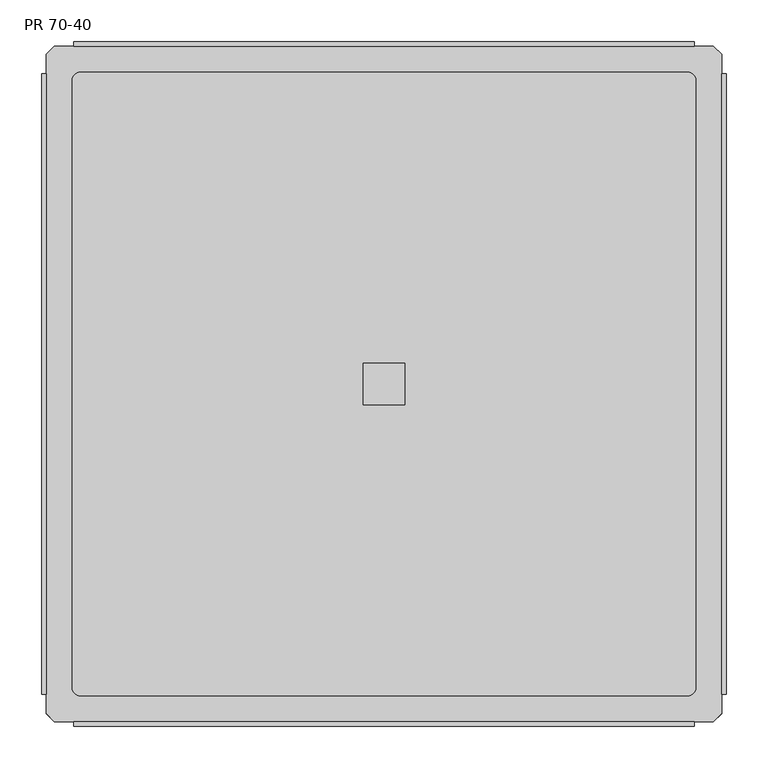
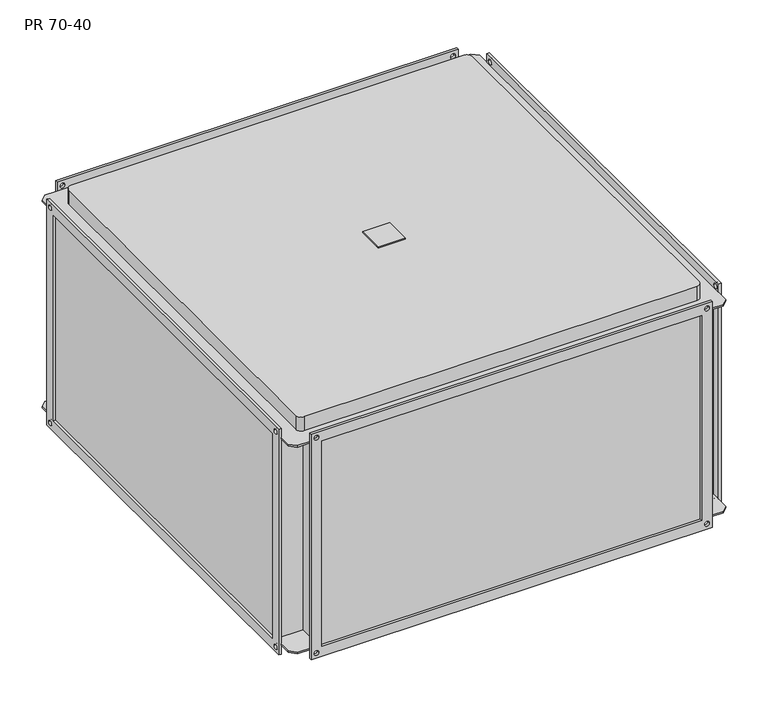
"""IFC4 building model written with IfcOpenShell, lengths in millimetres: proxy geometry, KORF_Рекуператор_Пластинчатый_PR : PR 70-40."""

from ifc_helpers import new_model, si_unit, point, frame, frame_2d, origin, place, context, project, spatial, polyline, circle_curve, trimmed, segment, composite_curve, outline, extrude, source, transform, mapped, element, save
from ifc_brep_helpers import plane_surface, cylinder_surface, revolved_surface, advanced_brep


def pr_70_40_7cd3e959(model_context):
    return source(origin(), model_context, "Body", "SolidModel", [
        extrude(outline(polyline([(383.0, -25.0), (383.0, 25.0), (433.0, 25.0), (433.0, -25.0), (383.0, -25.0)])), frame((0.0, 0.0, 230.0), z_axis=(0.0, 0.0, 1.0), x_axis=(1.0, 0.0, 0.0)), (0.0, 0.0, 1.0), 2.0),
        advanced_brep(
        [(758.0, -403.0, -200.0), (758.0, -403.0, 200.0), (58.0, -403.0, 200.0), (58.0, -403.0, -200.0), (758.0, 403.0, 200.0), (758.0, 403.0, -200.0), (58.0, 403.0, -200.0), (58.0, 403.0, 200.0), (15.0, 403.0, 203.0), (5.0, 393.0, 203.0), (5.0, -393.0, 203.0), (15.0, -403.0, 203.0), (38.0, -403.0, 203.0), (778.0, -403.0, 203.0), (801.0, -403.0, 203.0), (811.0, -393.0, 203.0), (811.0, 393.0, 203.0), (801.0, 403.0, 203.0), (778.0, 403.0, 203.0), (38.0, 403.0, 203.0), (46.0, 372.0, 203.0), (770.0, 372.0, 203.0), (780.0, 362.0, 203.0), (780.0, -362.0, 203.0), (770.0, -372.0, 203.0), (46.0, -372.0, 203.0), (36.0, -362.0, 203.0), (36.0, 362.0, 203.0), (55.0, -403.0, 200.0), (55.0, -353.0, 200.0), (55.0, -353.0, -200.0), (55.0, -403.0, -200.0), (55.0, 353.0, 200.0), (55.0, 403.0, 200.0), (55.0, 403.0, -200.0), (55.0, 353.0, -200.0), (5.0, 393.0, -203.0), (15.0, 403.0, -203.0), (38.0, 403.0, -203.0), (778.0, 403.0, -203.0), (801.0, 403.0, -203.0), (811.0, 393.0, -203.0), (811.0, -393.0, -203.0), (801.0, -403.0, -203.0), (778.0, -403.0, -203.0), (38.0, -403.0, -203.0), (15.0, -403.0, -203.0), (5.0, -393.0, -203.0), (761.0, -353.0, 200.0), (761.0, -403.0, 200.0), (761.0, -403.0, -200.0), (761.0, -353.0, -200.0), (761.0, 403.0, 200.0), (761.0, 353.0, 200.0), (761.0, 353.0, -200.0), (761.0, 403.0, -200.0), (811.0, 353.0, 200.0), (811.0, 393.0, 200.0), (811.0, -393.0, 200.0), (811.0, -353.0, 200.0), (811.0, -353.0, -200.0), (811.0, -393.0, -200.0), (811.0, 393.0, -200.0), (811.0, 353.0, -200.0), (5.0, 393.0, 200.0), (5.0, 353.0, 200.0), (5.0, 353.0, -200.0), (5.0, 393.0, -200.0), (5.0, -393.0, -200.0), (5.0, -353.0, -200.0), (5.0, -353.0, 200.0), (5.0, -393.0, 200.0), (778.0, 408.0, 220.0), (778.0, 408.0, -220.0), (38.0, 408.0, -220.0), (38.0, 408.0, 220.0), (758.0, 408.0, 200.0), (58.0, 408.0, 200.0), (58.0, 408.0, -200.0), (758.0, 408.0, -200.0), (43.5, 408.0, 210.0), (52.5, 408.0, 210.0), (763.5, 408.0, 210.0), (772.5, 408.0, 210.0), (763.5, 408.0, -210.0), (772.5, 408.0, -210.0), (43.5, 408.0, -210.0), (52.5, 408.0, -210.0), (778.0, 403.0, 220.0), (38.0, 403.0, 220.0), (43.5, 403.0, 210.0), (52.5, 403.0, 210.0), (763.5, 403.0, 210.0), (772.5, 403.0, 210.0), (38.0, 403.0, -220.0), (778.0, 403.0, -220.0), (763.5, 403.0, -210.0), (772.5, 403.0, -210.0), (43.5, 403.0, -210.0), (52.5, 403.0, -210.0), (38.0, 403.0, 200.0), (38.0, 403.0, -200.0), (778.0, 403.0, 200.0), (778.0, 403.0, -200.0), (778.0, -408.0, 220.0), (38.0, -408.0, 220.0), (38.0, -408.0, -220.0), (778.0, -408.0, -220.0), (758.0, -408.0, 200.0), (758.0, -408.0, -200.0), (58.0, -408.0, -200.0), (58.0, -408.0, 200.0), (763.5, -408.0, 210.0), (772.5, -408.0, 210.0), (763.5, -408.0, -210.0), (772.5, -408.0, -210.0), (43.5, -408.0, 210.0), (52.5, -408.0, 210.0), (43.5, -408.0, -210.0), (52.5, -408.0, -210.0), (778.0, -403.0, -220.0), (38.0, -403.0, -220.0), (763.5, -403.0, -210.0), (772.5, -403.0, -210.0), (43.5, -403.0, -210.0), (52.5, -403.0, -210.0), (38.0, -403.0, 220.0), (778.0, -403.0, 220.0), (763.5, -403.0, 210.0), (772.5, -403.0, 210.0), (43.5, -403.0, 210.0), (52.5, -403.0, 210.0), (38.0, -403.0, 200.0), (38.0, -403.0, -200.0), (778.0, -403.0, 200.0), (778.0, -403.0, -200.0), (801.0, -403.0, 200.0), (15.0, 403.0, 200.0), (801.0, 403.0, 200.0), (15.0, -403.0, 200.0), (801.0, 403.0, -200.0), (15.0, -403.0, -200.0), (15.0, 403.0, -200.0), (801.0, -403.0, -200.0), (770.0, 372.0, 230.0), (46.0, 372.0, 230.0), (36.0, 362.0, 230.0), (36.0, -362.0, 230.0), (46.0, -372.0, 230.0), (770.0, -372.0, 230.0), (780.0, -362.0, 230.0), (780.0, 362.0, 230.0)],
        [
            (0, 1),
            (1, 2),
            (2, 3),
            (3, 0),
            (4, 5),
            (5, 6),
            (6, 7),
            (7, 4),
            (8, 9),
            (9, 10),
            (10, 11),
            (11, 12),
            (12, 13),
            (13, 14),
            (14, 15),
            (15, 16),
            (16, 17),
            (17, 18),
            (18, 19),
            (19, 8),
            (20, 21),
            (21, 22, circle_curve(frame((770.0, 362.0, 203.0), z_axis=(0.0, 0.0, -1.0), x_axis=(1.0, 0.0, 0.0)), 10.0)),
            (22, 23),
            (23, 24, circle_curve(frame((770.0, -362.0, 203.0), z_axis=(0.0, 0.0, -1.0), x_axis=(1.0, 0.0, 0.0)), 10.0)),
            (24, 25),
            (25, 26, circle_curve(frame((46.0, -362.0, 203.0), z_axis=(0.0, 0.0, -1.0), x_axis=(1.0, 0.0, 0.0)), 10.0)),
            (26, 27),
            (27, 20, circle_curve(frame((46.0, 362.0, 203.0), z_axis=(0.0, 0.0, -1.0), x_axis=(1.0, 0.0, 0.0)), 10.0)),
            (28, 29),
            (29, 30),
            (30, 31),
            (31, 28),
            (32, 33),
            (33, 34),
            (34, 35),
            (35, 32),
            (36, 37),
            (37, 38),
            (38, 39),
            (39, 40),
            (40, 41),
            (41, 42),
            (42, 43),
            (43, 44),
            (44, 45),
            (45, 46),
            (46, 47),
            (47, 36),
            (48, 49),
            (49, 50),
            (50, 51),
            (51, 48),
            (52, 53),
            (53, 54),
            (54, 55),
            (55, 52),
            (56, 57),
            (57, 16),
            (15, 58),
            (58, 59),
            (59, 60),
            (60, 61),
            (61, 42),
            (41, 62),
            (62, 63),
            (63, 56),
            (64, 65),
            (65, 66),
            (66, 67),
            (67, 36),
            (47, 68),
            (68, 69),
            (69, 70),
            (70, 71),
            (71, 10),
            (9, 64),
            (29, 70),
            (69, 30),
            (59, 48),
            (51, 60),
            (65, 32),
            (35, 66),
            (53, 56),
            (63, 54),
            (72, 73),
            (73, 74),
            (74, 75),
            (75, 72),
            (76, 77),
            (77, 78),
            (78, 79),
            (79, 76),
            (80, 81, circle_curve(frame((48.0, 408.0, 210.0), z_axis=(0.0, -1.0, 0.0), x_axis=(1.0, 0.0, 0.0)), 4.5)),
            (81, 80, circle_curve(frame((48.0, 408.0, 210.0), z_axis=(0.0, -1.0, 0.0), x_axis=(1.0, 0.0, 0.0)), 4.5)),
            (82, 83, circle_curve(frame((768.0, 408.0, 210.0), z_axis=(0.0, -1.0, 0.0), x_axis=(1.0, 0.0, 0.0)), 4.5)),
            (83, 82, circle_curve(frame((768.0, 408.0, 210.0), z_axis=(0.0, -1.0, 0.0), x_axis=(1.0, 0.0, 0.0)), 4.5)),
            (84, 85, circle_curve(frame((768.0, 408.0, -210.0), z_axis=(0.0, -1.0, 0.0), x_axis=(1.0, 0.0, 0.0)), 4.5)),
            (85, 84, circle_curve(frame((768.0, 408.0, -210.0), z_axis=(0.0, -1.0, 0.0), x_axis=(1.0, 0.0, 0.0)), 4.5)),
            (86, 87, circle_curve(frame((48.0, 408.0, -210.0), z_axis=(0.0, -1.0, 0.0), x_axis=(1.0, 0.0, 0.0)), 4.5)),
            (87, 86, circle_curve(frame((48.0, 408.0, -210.0), z_axis=(0.0, -1.0, 0.0), x_axis=(1.0, 0.0, 0.0)), 4.5)),
            (88, 89),
            (89, 19),
            (18, 88),
            (90, 91, circle_curve(frame((48.0, 403.0, 210.0), z_axis=(0.0, 1.0, 0.0), x_axis=(1.0, 0.0, 0.0)), 4.5)),
            (91, 90, circle_curve(frame((48.0, 403.0, 210.0), z_axis=(0.0, 1.0, 0.0), x_axis=(1.0, 0.0, 0.0)), 4.5)),
            (92, 93, circle_curve(frame((768.0, 403.0, 210.0), z_axis=(0.0, 1.0, 0.0), x_axis=(1.0, 0.0, 0.0)), 4.5)),
            (93, 92, circle_curve(frame((768.0, 403.0, 210.0), z_axis=(0.0, 1.0, 0.0), x_axis=(1.0, 0.0, 0.0)), 4.5)),
            (94, 95),
            (95, 39),
            (38, 94),
            (96, 97, circle_curve(frame((768.0, 403.0, -210.0), z_axis=(0.0, 1.0, 0.0), x_axis=(1.0, 0.0, 0.0)), 4.5)),
            (97, 96, circle_curve(frame((768.0, 403.0, -210.0), z_axis=(0.0, 1.0, 0.0), x_axis=(1.0, 0.0, 0.0)), 4.5)),
            (98, 99, circle_curve(frame((48.0, 403.0, -210.0), z_axis=(0.0, 1.0, 0.0), x_axis=(1.0, 0.0, 0.0)), 4.5)),
            (99, 98, circle_curve(frame((48.0, 403.0, -210.0), z_axis=(0.0, 1.0, 0.0), x_axis=(1.0, 0.0, 0.0)), 4.5)),
            (33, 100),
            (100, 101),
            (101, 34),
            (102, 52),
            (55, 103),
            (103, 102),
            (75, 89),
            (88, 72),
            (74, 94),
            (38, 101),
            (100, 19),
            (73, 95),
            (18, 102),
            (103, 39),
            (79, 5),
            (4, 76),
            (78, 6),
            (77, 7),
            (104, 105),
            (105, 106),
            (106, 107),
            (107, 104),
            (108, 109),
            (109, 110),
            (110, 111),
            (111, 108),
            (112, 113, circle_curve(frame((768.0, -408.0, 210.0), z_axis=(0.0, 1.0, 0.0), x_axis=(1.0, 0.0, 0.0)), 4.5)),
            (113, 112, circle_curve(frame((768.0, -408.0, 210.0), z_axis=(0.0, 1.0, 0.0), x_axis=(1.0, 0.0, 0.0)), 4.5)),
            (114, 115, circle_curve(frame((768.0, -408.0, -210.0), z_axis=(0.0, 1.0, 0.0), x_axis=(1.0, 0.0, 0.0)), 4.5)),
            (115, 114, circle_curve(frame((768.0, -408.0, -210.0), z_axis=(0.0, 1.0, 0.0), x_axis=(1.0, 0.0, 0.0)), 4.5)),
            (116, 117, circle_curve(frame((48.0, -408.0, 210.0), z_axis=(0.0, 1.0, 0.0), x_axis=(1.0, 0.0, 0.0)), 4.5)),
            (117, 116, circle_curve(frame((48.0, -408.0, 210.0), z_axis=(0.0, 1.0, 0.0), x_axis=(1.0, 0.0, 0.0)), 4.5)),
            (118, 119, circle_curve(frame((48.0, -408.0, -210.0), z_axis=(0.0, 1.0, 0.0), x_axis=(1.0, 0.0, 0.0)), 4.5)),
            (119, 118, circle_curve(frame((48.0, -408.0, -210.0), z_axis=(0.0, 1.0, 0.0), x_axis=(1.0, 0.0, 0.0)), 4.5)),
            (120, 121),
            (121, 45),
            (44, 120),
            (122, 123, circle_curve(frame((768.0, -403.0, -210.0), z_axis=(0.0, -1.0, 0.0), x_axis=(1.0, 0.0, 0.0)), 4.5)),
            (123, 122, circle_curve(frame((768.0, -403.0, -210.0), z_axis=(0.0, -1.0, 0.0), x_axis=(1.0, 0.0, 0.0)), 4.5)),
            (124, 125, circle_curve(frame((48.0, -403.0, -210.0), z_axis=(0.0, -1.0, 0.0), x_axis=(1.0, 0.0, 0.0)), 4.5)),
            (125, 124, circle_curve(frame((48.0, -403.0, -210.0), z_axis=(0.0, -1.0, 0.0), x_axis=(1.0, 0.0, 0.0)), 4.5)),
            (126, 127),
            (127, 13),
            (12, 126),
            (128, 129, circle_curve(frame((768.0, -403.0, 210.0), z_axis=(0.0, -1.0, 0.0), x_axis=(1.0, 0.0, 0.0)), 4.5)),
            (129, 128, circle_curve(frame((768.0, -403.0, 210.0), z_axis=(0.0, -1.0, 0.0), x_axis=(1.0, 0.0, 0.0)), 4.5)),
            (130, 131, circle_curve(frame((48.0, -403.0, 210.0), z_axis=(0.0, -1.0, 0.0), x_axis=(1.0, 0.0, 0.0)), 4.5)),
            (131, 130, circle_curve(frame((48.0, -403.0, 210.0), z_axis=(0.0, -1.0, 0.0), x_axis=(1.0, 0.0, 0.0)), 4.5)),
            (132, 28),
            (31, 133),
            (133, 132),
            (49, 134),
            (134, 135),
            (135, 50),
            (104, 127),
            (126, 105),
            (12, 132),
            (133, 45),
            (121, 106),
            (120, 107),
            (44, 135),
            (134, 13),
            (108, 1),
            (0, 109),
            (3, 110),
            (2, 111),
            (81, 91),
            (90, 80),
            (83, 93),
            (92, 82),
            (85, 97),
            (96, 84),
            (87, 99),
            (98, 86),
            (112, 128),
            (129, 113),
            (114, 122),
            (123, 115),
            (116, 130),
            (131, 117),
            (118, 124),
            (125, 119),
            (58, 136),
            (136, 134),
            (64, 137),
            (137, 100),
            (138, 57),
            (102, 138),
            (139, 71),
            (132, 139),
            (137, 8),
            (138, 17),
            (139, 11),
            (136, 14),
            (62, 140),
            (140, 103),
            (68, 141),
            (141, 133),
            (142, 67),
            (101, 142),
            (143, 61),
            (135, 143),
            (37, 142),
            (40, 140),
            (46, 141),
            (43, 143),
            (144, 145),
            (145, 146, circle_curve(frame((46.0, 362.0, 230.0), z_axis=(0.0, 0.0, 1.0), x_axis=(1.0, 0.0, 0.0)), 10.0)),
            (146, 147),
            (147, 148, circle_curve(frame((46.0, -362.0, 230.0), z_axis=(0.0, 0.0, 1.0), x_axis=(1.0, 0.0, 0.0)), 10.0)),
            (148, 149),
            (149, 150, circle_curve(frame((770.0, -362.0, 230.0), z_axis=(0.0, 0.0, 1.0), x_axis=(1.0, 0.0, 0.0)), 10.0)),
            (150, 151),
            (151, 144, circle_curve(frame((770.0, 362.0, 230.0), z_axis=(0.0, 0.0, 1.0), x_axis=(1.0, 0.0, 0.0)), 10.0)),
            (144, 21),
            (20, 145),
            (27, 146),
            (26, 147),
            (25, 148),
            (24, 149),
            (23, 150),
            (22, 151),
        ],
        [
            plane_surface(frame((55.0, -403.0, 203.0), z_axis=(0.0, -1.0, 0.0), x_axis=(-1.0, 0.0, 0.0))),
            plane_surface(frame((55.0, 403.0, 203.0), z_axis=(0.0, 1.0, 0.0), x_axis=(1.0, 0.0, 0.0))),
            plane_surface(frame((761.0, -403.0, 203.0), z_axis=(0.0, 0.0, 1.0), x_axis=(0.0, 1.0, 0.0))),
            plane_surface(frame((55.0, -403.0, 203.0), z_axis=(-1.0, 0.0, 0.0), x_axis=(0.0, 1.0, 0.0))),
            plane_surface(frame((55.0, -403.0, -203.0), z_axis=(0.0, 0.0, -1.0), x_axis=(0.0, 1.0, 0.0))),
            plane_surface(frame((761.0, -403.0, -203.0), z_axis=(1.0, 0.0, 0.0), x_axis=(0.0, 1.0, 0.0))),
            plane_surface(frame((811.0, -353.0, 203.0), z_axis=(1.0, 0.0, 0.0), x_axis=(0.0, 0.0, -1.0))),
            plane_surface(frame((5.0, -353.0, 203.0), z_axis=(-1.0, 0.0, 0.0), x_axis=(0.0, 0.0, 1.0))),
            plane_surface(frame((811.0, -353.0, 203.0), z_axis=(0.0, -1.0, 0.0), x_axis=(-1.0, 0.0, 0.0))),
            plane_surface(frame((811.0, 353.0, -203.0), z_axis=(0.0, 1.0, 0.0), x_axis=(-1.0, 0.0, 0.0))),
            plane_surface(frame((38.0, 408.0, 220.0), z_axis=(0.0, 1.0, 0.0), x_axis=(1.0, 0.0, 0.0))),
            plane_surface(frame((38.0, 403.0, 220.0), z_axis=(0.0, -1.0, 0.0), x_axis=(-1.0, 0.0, 0.0))),
            plane_surface(frame((778.0, 403.0, 220.0), z_axis=(0.0, 0.0, 1.0), x_axis=(0.0, 1.0, 0.0))),
            plane_surface(frame((38.0, 403.0, 220.0), z_axis=(-1.0, 0.0, 0.0), x_axis=(0.0, 1.0, 0.0))),
            plane_surface(frame((38.0, 403.0, -220.0), z_axis=(0.0, 0.0, -1.0), x_axis=(0.0, 1.0, 0.0))),
            plane_surface(frame((778.0, 403.0, -220.0), z_axis=(1.0, 0.0, 0.0), x_axis=(0.0, 1.0, 0.0))),
            plane_surface(frame((758.0, 403.0, 200.0), z_axis=(-1.0, 0.0, 0.0), x_axis=(0.0, 1.0, 0.0))),
            plane_surface(frame((758.0, 403.0, -200.0), z_axis=(0.0, 0.0, 1.0), x_axis=(0.0, 1.0, 0.0))),
            plane_surface(frame((58.0, 403.0, -200.0), z_axis=(1.0, 0.0, 0.0), x_axis=(0.0, 1.0, 0.0))),
            plane_surface(frame((58.0, 403.0, 200.0), z_axis=(0.0, 0.0, -1.0), x_axis=(0.0, 1.0, 0.0))),
            plane_surface(frame((38.0, -408.0, 220.0), z_axis=(0.0, -1.0, 0.0), x_axis=(-1.0, 0.0, 0.0))),
            plane_surface(frame((38.0, -403.0, 220.0), z_axis=(0.0, 1.0, 0.0), x_axis=(1.0, 0.0, 0.0))),
            plane_surface(frame((778.0, -408.0, 220.0), z_axis=(0.0, 0.0, 1.0), x_axis=(0.0, 1.0, 0.0))),
            plane_surface(frame((38.0, -408.0, 220.0), z_axis=(-1.0, 0.0, 0.0), x_axis=(0.0, 1.0, 0.0))),
            plane_surface(frame((38.0, -408.0, -220.0), z_axis=(0.0, 0.0, -1.0), x_axis=(0.0, 1.0, 0.0))),
            plane_surface(frame((778.0, -408.0, -220.0), z_axis=(1.0, 0.0, 0.0), x_axis=(0.0, 1.0, 0.0))),
            plane_surface(frame((758.0, -408.0, 200.0), z_axis=(-1.0, 0.0, 0.0), x_axis=(0.0, 1.0, 0.0))),
            plane_surface(frame((758.0, -408.0, -200.0), z_axis=(0.0, 0.0, 1.0), x_axis=(0.0, 1.0, 0.0))),
            plane_surface(frame((58.0, -408.0, -200.0), z_axis=(1.0, 0.0, 0.0), x_axis=(0.0, 1.0, 0.0))),
            plane_surface(frame((58.0, -408.0, 200.0), z_axis=(0.0, 0.0, -1.0), x_axis=(0.0, 1.0, 0.0))),
            revolved_surface(polyline([(52.5, 408.0, 210.0), (52.5, 403.0, 210.0)]), (48.0, 0.0, 210.0), (0.0, 1.0, 0.0)),
            revolved_surface(polyline([(772.5, 408.0, 210.0), (772.5, 403.0, 210.0)]), (768.0, 0.0, 210.0), (0.0, 1.0, 0.0)),
            revolved_surface(polyline([(772.5, 408.0, -210.0), (772.5, 403.0, -210.0)]), (768.0, 0.0, -210.0), (0.0, 1.0, 0.0)),
            revolved_surface(polyline([(52.5, 408.0, -210.0), (52.5, 403.0, -210.0)]), (48.0, 0.0, -210.0), (0.0, 1.0, 0.0)),
            revolved_surface(polyline([(772.5, -403.0, 210.0), (772.5, -408.0, 210.0)]), (768.0, 0.0, 210.0), (0.0, 1.0, 0.0)),
            revolved_surface(polyline([(772.5, -403.0, -210.0), (772.5, -408.0, -210.0)]), (768.0, 0.0, -210.0), (0.0, 1.0, 0.0)),
            revolved_surface(polyline([(52.5, -403.0, 210.0), (52.5, -408.0, 210.0)]), (48.0, 0.0, 210.0), (0.0, 1.0, 0.0)),
            revolved_surface(polyline([(52.5, -403.0, -210.0), (52.5, -408.0, -210.0)]), (48.0, 0.0, -210.0), (0.0, 1.0, 0.0)),
            plane_surface(frame((55.0, 353.0, 200.0), z_axis=(0.0, 0.0, -1.0), x_axis=(0.0, -1.0, 0.0))),
            plane_surface(frame((55.0, 403.0, 203.0), z_axis=(0.0, 1.0, 0.0), x_axis=(0.0, 0.0, -1.0))),
            plane_surface(frame((15.0, 403.0, 203.0), z_axis=(-0.7071067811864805, 0.7071067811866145, 0.0), x_axis=(0.0, 0.0, -1.0))),
            plane_surface(frame((811.0, 393.0, 203.0), z_axis=(0.7071067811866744, 0.7071067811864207, 0.0), x_axis=(0.0, 0.0, -1.0))),
            plane_surface(frame((801.0, 403.0, 203.0), z_axis=(0.0, 1.0, 0.0), x_axis=(0.0, 0.0, -1.0))),
            plane_surface(frame((5.0, -393.0, 203.0), z_axis=(-0.7071067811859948, -0.7071067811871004, 0.0), x_axis=(0.0, 0.0, -1.0))),
            plane_surface(frame((15.0, -403.0, 203.0), z_axis=(0.0, -1.0, 0.0), x_axis=(0.0, 0.0, -1.0))),
            plane_surface(frame((761.0, -403.0, 203.0), z_axis=(0.0, -1.0, 0.0), x_axis=(0.0, 0.0, -1.0))),
            plane_surface(frame((801.0, -403.0, 203.0), z_axis=(0.7071067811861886, -0.7071067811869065, 0.0), x_axis=(0.0, 0.0, -1.0))),
            plane_surface(frame((55.0, 353.0, -200.0), z_axis=(0.0, 0.0, 1.0), x_axis=(0.0, 1.0, 0.0))),
            plane_surface(frame((55.0, 403.0, -200.0), z_axis=(0.0, 1.0, 0.0), x_axis=(0.0, 0.0, -1.0))),
            plane_surface(frame((15.0, 403.0, -200.0), z_axis=(-0.7071067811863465, 0.7071067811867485, 0.0), x_axis=(0.0, 0.0, -1.0))),
            plane_surface(frame((811.0, 393.0, -200.0), z_axis=(0.707106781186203, 0.7071067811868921, 0.0), x_axis=(0.0, 0.0, -1.0))),
            plane_surface(frame((801.0, 403.0, -200.0), z_axis=(0.0, 1.0, 0.0), x_axis=(0.0, 0.0, -1.0))),
            plane_surface(frame((5.0, -393.0, -200.0), z_axis=(-0.7071067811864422, -0.7071067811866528, 0.0), x_axis=(0.0, 0.0, -1.0))),
            plane_surface(frame((15.0, -403.0, -200.0), z_axis=(0.0, -1.0, 0.0), x_axis=(0.0, 0.0, -1.0))),
            plane_surface(frame((761.0, -403.0, -200.0), z_axis=(0.0, -1.0, 0.0), x_axis=(0.0, 0.0, -1.0))),
            plane_surface(frame((801.0, -403.0, -200.0), z_axis=(0.707106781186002, -0.7071067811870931, 0.0), x_axis=(0.0, 0.0, -1.0))),
            plane_surface(frame((46.0, 372.0, 230.0), z_axis=(0.0, 0.0, 1.0), x_axis=(-1.0, 0.0, 0.0))),
            plane_surface(frame((770.0, 372.0, 230.0), z_axis=(0.0, 1.0, 0.0), x_axis=(0.0, 0.0, -1.0))),
            cylinder_surface(frame((46.0, 362.0, 203.0), z_axis=(0.0, 0.0, 1.0), x_axis=(1.0, 0.0, 0.0)), 10.0),
            plane_surface(frame((36.0, 362.0, 230.0), z_axis=(-1.0, 0.0, 0.0), x_axis=(0.0, 0.0, -1.0))),
            cylinder_surface(frame((46.0, -362.0, 203.0), z_axis=(0.0, 0.0, 1.0), x_axis=(1.0, 0.0, 0.0)), 10.0),
            plane_surface(frame((46.0, -372.0, 230.0), z_axis=(0.0, -1.0, 0.0), x_axis=(0.0, 0.0, -1.0))),
            cylinder_surface(frame((770.0, -362.0, 203.0), z_axis=(0.0, 0.0, 1.0), x_axis=(1.0, 0.0, 0.0)), 10.0),
            plane_surface(frame((780.0, -362.0, 230.0), z_axis=(1.0, 0.0, 0.0), x_axis=(0.0, 0.0, -1.0))),
            cylinder_surface(frame((770.0, 362.0, 203.0), z_axis=(0.0, 0.0, 1.0), x_axis=(1.0, 0.0, 0.0)), 10.0),
        ],
        [
            (0, [[1, 2, 3, 4]]),
            (1, [[5, 6, 7, 8]]),
            (2, [[9, 10, 11, 12, 13, 14, 15, 16, 17, 18, 19, 20], [21, 22, 23, 24, 25, 26, 27, 28]]),
            (3, [[29, 30, 31, 32]]),
            (3, [[33, 34, 35, 36]]),
            (4, [[37, 38, 39, 40, 41, 42, 43, 44, 45, 46, 47, 48]]),
            (5, [[49, 50, 51, 52]]),
            (5, [[53, 54, 55, 56]]),
            (6, [[57, 58, -16, 59, 60, 61, 62, 63, -42, 64, 65, 66]]),
            (7, [[67, 68, 69, 70, -48, 71, 72, 73, 74, 75, -10, 76]]),
            (8, [[77, -73, 78, -30]]),
            (8, [[79, -52, 80, -61]]),
            (9, [[81, -36, 82, -68]]),
            (9, [[83, -66, 84, -54]]),
            (10, [[85, 86, 87, 88], [89, 90, 91, 92], [93, 94], [95, 96], [97, 98], [99, 100]]),
            (11, [[101, 102, -19, 103], [104, 105], [106, 107]]),
            (11, [[108, 109, -39, 110], [111, 112], [113, 114]]),
            (11, [[115, 116, 117, -34]]),
            (11, [[118, -56, 119, 120]]),
            (12, [[-88, 121, -101, 122]]),
            (13, [[-87, 123, -110, 124, -116, 125, -102, -121]]),
            (14, [[-86, 126, -108, -123]]),
            (15, [[-85, -122, -103, 127, -120, 128, -109, -126]]),
            (16, [[-92, 129, -5, 130]]),
            (17, [[-91, 131, -6, -129]]),
            (18, [[-90, 132, -7, -131]]),
            (19, [[-89, -130, -8, -132]]),
            (20, [[133, 134, 135, 136], [137, 138, 139, 140], [141, 142], [143, 144], [145, 146], [147, 148]]),
            (21, [[149, 150, -45, 151], [152, 153], [154, 155]]),
            (21, [[156, 157, -13, 158], [159, 160], [161, 162]]),
            (21, [[163, -32, 164, 165]]),
            (21, [[166, 167, 168, -50]]),
            (22, [[-133, 169, -156, 170]]),
            (23, [[-134, -170, -158, 171, -165, 172, -150, 173]]),
            (24, [[-135, -173, -149, 174]]),
            (25, [[-136, -174, -151, 175, -167, 176, -157, -169]]),
            (26, [[-137, 177, -1, 178]]),
            (27, [[-138, -178, -4, 179]]),
            (28, [[-139, -179, -3, 180]]),
            (29, [[-140, -180, -2, -177]]),
            (30, [[-94, 181, -104, 182]]),
            (30, [[-93, -182, -105, -181]]),
            (31, [[-96, 183, -106, 184]]),
            (31, [[-95, -184, -107, -183]]),
            (32, [[-98, 185, -111, 186]]),
            (32, [[-97, -186, -112, -185]]),
            (33, [[-100, 187, -113, 188]]),
            (33, [[-99, -188, -114, -187]]),
            (34, [[-141, 189, -160, 190]]),
            (34, [[-142, -190, -159, -189]]),
            (35, [[-143, 191, -153, 192]]),
            (35, [[-144, -192, -152, -191]]),
            (36, [[-145, 193, -162, 194]]),
            (36, [[-146, -194, -161, -193]]),
            (37, [[-147, 195, -155, 196]]),
            (37, [[-148, -196, -154, -195]]),
            (38, [[-60, 197, 198, -166, -49, -79]]),
            (38, [[-67, 199, 200, -115, -33, -81]]),
            (38, [[201, -57, -83, -53, -118, 202]]),
            (38, [[203, -74, -77, -29, -163, 204]]),
            (39, [[205, -20, -125, -200]]),
            (40, [[-199, -76, -9, -205]]),
            (41, [[-201, 206, -17, -58]]),
            (42, [[-206, -202, -127, -18]]),
            (43, [[-203, 207, -11, -75]]),
            (44, [[-207, -204, -171, -12]]),
            (45, [[208, -14, -176, -198]]),
            (46, [[-197, -59, -15, -208]]),
            (47, [[-65, 209, 210, -119, -55, -84]]),
            (47, [[-72, 211, 212, -164, -31, -78]]),
            (47, [[213, -69, -82, -35, -117, 214]]),
            (47, [[215, -62, -80, -51, -168, 216]]),
            (48, [[217, -214, -124, -38]]),
            (49, [[-213, -217, -37, -70]]),
            (50, [[-209, -64, -41, 218]]),
            (51, [[-218, -40, -128, -210]]),
            (52, [[-211, -71, -47, 219]]),
            (53, [[-219, -46, -172, -212]]),
            (54, [[220, -216, -175, -44]]),
            (55, [[-215, -220, -43, -63]]),
            (56, [[221, 222, 223, 224, 225, 226, 227, 228]]),
            (57, [[-221, 229, -21, 230]]),
            (58, [[-222, -230, -28, 231]]),
            (59, [[-223, -231, -27, 232]]),
            (60, [[-224, -232, -26, 233]]),
            (61, [[-225, -233, -25, 234]]),
            (62, [[-226, -234, -24, 235]]),
            (63, [[-227, -235, -23, 236]]),
            (64, [[-228, -236, -22, -229]]),
        ],
    ),
        extrude(outline(polyline([(-370.0, 220.0), (370.0, 220.0), (370.0, -220.0), (-370.0, -220.0), (-370.0, 220.0)]), holes=[polyline([(-350.0, 200.0), (-350.0, -200.0), (350.0, -200.0), (350.0, 200.0), (-350.0, 200.0)]), composite_curve([segment(trimmed(circle_curve(frame_2d((360.0, 210.0)), 4.5), [point((355.5, 210.0))], [point((364.5, 210.0))], True, "CARTESIAN"), True, "CONTINUOUS"), segment(trimmed(circle_curve(frame_2d((360.0, 210.0)), 4.5), [point((364.5, 210.0))], [point((355.5, 210.0))], True, "CARTESIAN"), True, "CONTINUOUS")], self_intersect=False), composite_curve([segment(trimmed(circle_curve(frame_2d((-360.0, 210.0)), 4.5), [point((-364.5, 210.0))], [point((-355.5, 210.0))], True, "CARTESIAN"), True, "CONTINUOUS"), segment(trimmed(circle_curve(frame_2d((-360.0, 210.0)), 4.5), [point((-355.5, 210.0))], [point((-364.5, 210.0))], True, "CARTESIAN"), True, "CONTINUOUS")], self_intersect=False), composite_curve([segment(trimmed(circle_curve(frame_2d((-360.0, -210.0)), 4.5), [point((-364.5, -210.0))], [point((-355.5, -210.0))], True, "CARTESIAN"), True, "CONTINUOUS"), segment(trimmed(circle_curve(frame_2d((-360.0, -210.0)), 4.5), [point((-355.5, -210.0))], [point((-364.5, -210.0))], True, "CARTESIAN"), True, "CONTINUOUS")], self_intersect=False), composite_curve([segment(trimmed(circle_curve(frame_2d((360.0, -210.0)), 4.5), [point((355.5, -210.0))], [point((364.5, -210.0))], True, "CARTESIAN"), True, "CONTINUOUS"), segment(trimmed(circle_curve(frame_2d((360.0, -210.0)), 4.5), [point((364.5, -210.0))], [point((355.5, -210.0))], True, "CARTESIAN"), True, "CONTINUOUS")], self_intersect=False)]), frame((811.0, 0.0, 0.0), z_axis=(1.0, 0.0, 0.0), x_axis=(0.0, 1.0, 0.0)), (0.0, 0.0, 1.0), 5.0),
        advanced_brep(
        [(0.0, -370.0, 220.0), (0.0, 370.0, 220.0), (0.0, 370.0, -220.0), (0.0, -370.0, -220.0), (0.0, -350.0, 200.0), (0.0, -350.0, -200.0), (0.0, 350.0, -200.0), (0.0, 350.0, 200.0), (0.0, 355.5, 210.0), (0.0, 364.5, 210.0), (0.0, -364.5, 210.0), (0.0, -355.5, 210.0), (0.0, -364.5, -210.0), (0.0, -355.5, -210.0), (0.0, 355.5, -210.0), (0.0, 364.5, -210.0), (5.0, -370.0, 220.0), (5.0, -370.0, -220.0), (5.0, 370.0, -220.0), (5.0, 370.0, 220.0), (5.0, 364.5, 210.0), (5.0, 355.5, 210.0), (5.0, -355.5, 210.0), (5.0, -364.5, 210.0), (5.0, -355.5, -210.0), (5.0, -364.5, -210.0), (5.0, 364.5, -210.0), (5.0, 355.5, -210.0), (5.0, -350.0, -200.0), (5.0, -350.0, 200.0), (5.0, 350.0, 200.0), (5.0, 350.0, -200.0), (5.0, 350.0, 200.0), (5.0, -350.0, 200.0), (5.0, 350.0, -200.0), (5.0, -350.0, -200.0), (811.0, -350.0, 200.0), (811.0, -350.0, -200.0), (811.0, 350.0, 200.0), (811.0, 350.0, -200.0)],
        [
            (0, 1),
            (1, 2),
            (2, 3),
            (3, 0),
            (4, 5),
            (5, 6),
            (6, 7),
            (7, 4),
            (8, 9, circle_curve(frame((0.0, 360.0, 210.0), z_axis=(1.0, 0.0, 0.0), x_axis=(0.0, 1.0, 0.0)), 4.5)),
            (9, 8, circle_curve(frame((0.0, 360.0, 210.0), z_axis=(1.0, 0.0, 0.0), x_axis=(0.0, 1.0, 0.0)), 4.5)),
            (10, 11, circle_curve(frame((0.0, -360.0, 210.0), z_axis=(1.0, 0.0, 0.0), x_axis=(0.0, 1.0, 0.0)), 4.5)),
            (11, 10, circle_curve(frame((0.0, -360.0, 210.0), z_axis=(1.0, 0.0, 0.0), x_axis=(0.0, 1.0, 0.0)), 4.5)),
            (12, 13, circle_curve(frame((0.0, -360.0, -210.0), z_axis=(1.0, 0.0, 0.0), x_axis=(0.0, 1.0, 0.0)), 4.5)),
            (13, 12, circle_curve(frame((0.0, -360.0, -210.0), z_axis=(1.0, 0.0, 0.0), x_axis=(0.0, 1.0, 0.0)), 4.5)),
            (14, 15, circle_curve(frame((0.0, 360.0, -210.0), z_axis=(1.0, 0.0, 0.0), x_axis=(0.0, 1.0, 0.0)), 4.5)),
            (15, 14, circle_curve(frame((0.0, 360.0, -210.0), z_axis=(1.0, 0.0, 0.0), x_axis=(0.0, 1.0, 0.0)), 4.5)),
            (16, 17),
            (17, 18),
            (18, 19),
            (19, 16),
            (20, 21, circle_curve(frame((5.0, 360.0, 210.0), z_axis=(-1.0, 0.0, 0.0), x_axis=(0.0, 1.0, 0.0)), 4.5)),
            (21, 20, circle_curve(frame((5.0, 360.0, 210.0), z_axis=(-1.0, 0.0, 0.0), x_axis=(0.0, 1.0, 0.0)), 4.5)),
            (22, 23, circle_curve(frame((5.0, -360.0, 210.0), z_axis=(-1.0, 0.0, 0.0), x_axis=(0.0, 1.0, 0.0)), 4.5)),
            (23, 22, circle_curve(frame((5.0, -360.0, 210.0), z_axis=(-1.0, 0.0, 0.0), x_axis=(0.0, 1.0, 0.0)), 4.5)),
            (24, 25, circle_curve(frame((5.0, -360.0, -210.0), z_axis=(-1.0, 0.0, 0.0), x_axis=(0.0, 1.0, 0.0)), 4.5)),
            (25, 24, circle_curve(frame((5.0, -360.0, -210.0), z_axis=(-1.0, 0.0, 0.0), x_axis=(0.0, 1.0, 0.0)), 4.5)),
            (26, 27, circle_curve(frame((5.0, 360.0, -210.0), z_axis=(-1.0, 0.0, 0.0), x_axis=(0.0, 1.0, 0.0)), 4.5)),
            (27, 26, circle_curve(frame((5.0, 360.0, -210.0), z_axis=(-1.0, 0.0, 0.0), x_axis=(0.0, 1.0, 0.0)), 4.5)),
            (28, 29),
            (29, 30),
            (30, 31),
            (31, 28),
            (3, 17),
            (16, 0),
            (2, 18),
            (1, 19),
            (7, 32),
            (32, 33),
            (33, 4),
            (6, 34),
            (34, 32),
            (5, 35),
            (35, 34),
            (33, 35),
            (20, 9),
            (8, 21),
            (22, 11),
            (10, 23),
            (24, 13),
            (12, 25),
            (26, 15),
            (14, 27),
            (36, 29),
            (28, 37),
            (37, 36),
            (38, 39),
            (39, 31),
            (30, 38),
            (36, 38),
            (39, 37),
        ],
        [
            plane_surface(frame((0.0, -370.0, 220.0), z_axis=(-1.0, 0.0, 0.0), x_axis=(0.0, 0.0, 1.0))),
            plane_surface(frame((5.0, -370.0, 220.0), z_axis=(1.0, 0.0, 0.0), x_axis=(0.0, 0.0, -1.0))),
            plane_surface(frame((5.0, -370.0, 220.0), z_axis=(0.0, -1.0, 0.0), x_axis=(-1.0, 0.0, 0.0))),
            plane_surface(frame((5.0, -370.0, -220.0), z_axis=(0.0, 0.0, -1.0), x_axis=(-1.0, 0.0, 0.0))),
            plane_surface(frame((5.0, 370.0, -220.0), z_axis=(0.0, 1.0, 0.0), x_axis=(-1.0, 0.0, 0.0))),
            plane_surface(frame((5.0, 370.0, 220.0), z_axis=(0.0, 0.0, 1.0), x_axis=(-1.0, 0.0, 0.0))),
            plane_surface(frame((5.0, -350.0, 200.0), z_axis=(0.0, 0.0, -1.0), x_axis=(-1.0, 0.0, 0.0))),
            plane_surface(frame((5.0, 350.0, 200.0), z_axis=(0.0, -1.0, 0.0), x_axis=(-1.0, 0.0, 0.0))),
            plane_surface(frame((5.0, 350.0, -200.0), z_axis=(0.0, 0.0, 1.0), x_axis=(-1.0, 0.0, 0.0))),
            plane_surface(frame((5.0, -350.0, -200.0), z_axis=(0.0, 1.0, 0.0), x_axis=(-1.0, 0.0, 0.0))),
            revolved_surface(polyline([(5.0, 364.5, 210.0), (0.0, 364.5, 210.0)]), (0.0, 360.0, 210.0), (1.0, 0.0, 0.0)),
            revolved_surface(polyline([(5.0, -355.5, 210.0), (0.0, -355.5, 210.0)]), (0.0, -360.0, 210.0), (1.0, 0.0, 0.0)),
            revolved_surface(polyline([(5.0, -355.5, -210.0), (0.0, -355.5, -210.0)]), (0.0, -360.0, -210.0), (1.0, 0.0, 0.0)),
            revolved_surface(polyline([(5.0, 364.5, -210.0), (0.0, 364.5, -210.0)]), (0.0, 360.0, -210.0), (1.0, 0.0, 0.0)),
            plane_surface(frame((5.0, -350.0, 200.0), z_axis=(0.0, -1.0, 0.0), x_axis=(-1.0, 0.0, 0.0))),
            plane_surface(frame((5.0, 350.0, 200.0), z_axis=(0.0, 1.0, 0.0), x_axis=(1.0, 0.0, 0.0))),
            plane_surface(frame((811.0, -350.0, 200.0), z_axis=(0.0, 0.0, 1.0), x_axis=(0.0, 1.0, 0.0))),
            plane_surface(frame((5.0, -350.0, 200.0), z_axis=(-1.0, 0.0, 0.0), x_axis=(0.0, 1.0, 0.0))),
            plane_surface(frame((5.0, -350.0, -200.0), z_axis=(0.0, 0.0, -1.0), x_axis=(0.0, 1.0, 0.0))),
            plane_surface(frame((811.0, -350.0, -200.0), z_axis=(1.0, 0.0, 0.0), x_axis=(0.0, 1.0, 0.0))),
        ],
        [
            (0, [[1, 2, 3, 4], [5, 6, 7, 8], [9, 10], [11, 12], [13, 14], [15, 16]]),
            (1, [[17, 18, 19, 20], [21, 22], [23, 24], [25, 26], [27, 28], [29, 30, 31, 32]]),
            (2, [[-4, 33, -17, 34]]),
            (3, [[-3, 35, -18, -33]]),
            (4, [[-2, 36, -19, -35]]),
            (5, [[-1, -34, -20, -36]]),
            (6, [[-8, 37, 38, 39]]),
            (7, [[-7, 40, 41, -37]]),
            (8, [[-6, 42, 43, -40]]),
            (9, [[-5, -39, 44, -42]]),
            (10, [[45, -9, 46, -21]]),
            (10, [[-45, -22, -46, -10]]),
            (11, [[47, -11, 48, -23]]),
            (11, [[-47, -24, -48, -12]]),
            (12, [[49, -13, 50, -25]]),
            (12, [[-49, -26, -50, -14]]),
            (13, [[51, -15, 52, -27]]),
            (13, [[-51, -28, -52, -16]]),
            (14, [[53, -29, 54, 55]]),
            (15, [[56, 57, -31, 58]]),
            (16, [[-53, 59, -58, -30]]),
            (17, [[-38, -41, -43, -44]]),
            (18, [[-54, -32, -57, 60]]),
            (19, [[-55, -60, -56, -59]]),
        ],
    ),
    ])


if __name__ == "__main__":
    model = new_model("IFC4")
    model_context = context("Model", 3, world=origin())
    ifc_project = project(units=[si_unit("LENGTHUNIT", "METRE", prefix="MILLI")], contexts=[model_context])
    site = spatial("IfcSite", under=ifc_project)
    building = spatial("IfcBuilding", under=site)
    placement = place(None, origin())
    pr_70_40_shape = pr_70_40_7cd3e959(model_context)
    element("IfcBuildingElementProxy", 1, Name="KORF_Рекуператор_Пластинчатый_PR : PR 70-40", ObjectType="KORF_Рекуператор_Пластинчатый_PR : PR 70-40", at=placement, inside=building, context=model_context, shape_type="MappedRepresentation", body=[
        mapped(pr_70_40_shape, transform((0.0, 0.0, 0.0), x_axis=(1.0, 0.0, 0.0), y_axis=(0.0, 1.0, 0.0), z_axis=(0.0, 0.0, 1.0))),
    ])
    save(model, "model.ifc")
